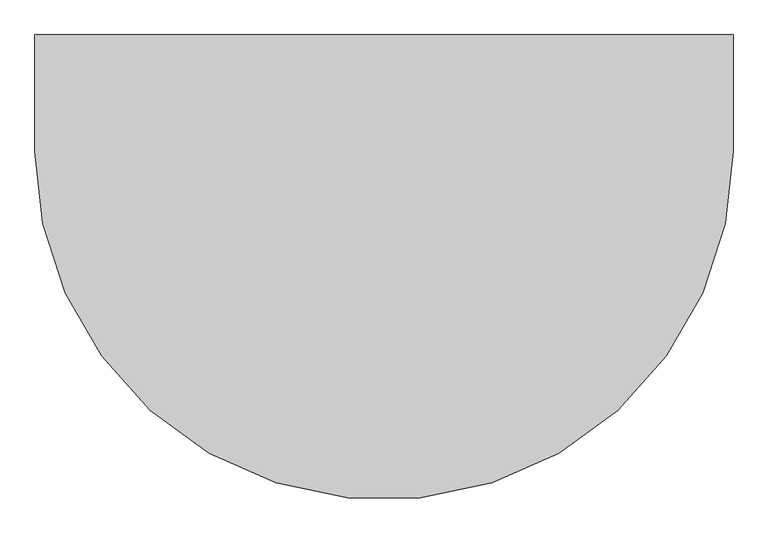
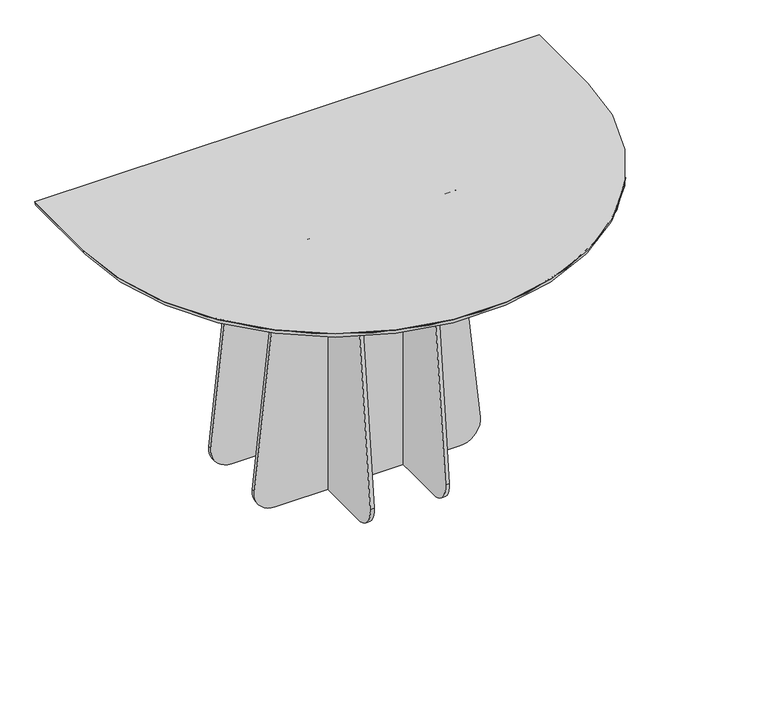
"""IFC4 building model written with IfcOpenShell, lengths in millimetres: furniture geometry, Lundbergs Möbler - Funghi Mèta - Table - Half Moon - 180 - H105 : Lundbergs Möbler - Funghi Mèta - Table - Half Moon - 180 - H105."""

from ifc_helpers import new_model, si_unit, point, frame, frame_2d, origin, place, context, project, spatial, polyline, circle_curve, ellipse_curve, trimmed, segment, composite_curve, outline, extrude, source, transform, mapped, element, save
from ifc_brep_helpers import plane_surface, cylinder_surface, revolved_surface, advanced_brep


def furniture_8cfc61dc(model_context):
    return source(origin(), model_context, "Body", "SolidModel", [
        advanced_brep(
        [(899.9999872, 356.1679038, 1050.0), (899.9999872, 356.1679038, 1048.4429462), (877.6980213, 356.1679038, 1026.1409804), (-877.6979684, 356.1679038, 1026.1409804), (-899.9999342, 356.1679038, 1048.4429462), (-899.9999342, 356.1679038, 1050.0), (-899.9999342, 56.0832467, 1050.0), (899.9999872, 56.0832467, 1050.0), (899.9999872, 56.0832467, 1048.4429462), (877.6980213, 56.0832467, 1026.1409804), (-877.6979684, 56.0832467, 1026.1409804), (-899.9999342, 56.0832467, 1048.4429462)],
        [
            (0, 1),
            (1, 2, circle_curve(frame((877.6980213, 356.1679038, 1048.4429462), z_axis=(0.0, 1.0, 0.0), x_axis=(1.0, 0.0, 0.0)), 22.3019658)),
            (2, 3),
            (3, 4, circle_curve(frame((-877.6979684, 356.1679038, 1048.4429462), z_axis=(0.0, 1.0, 0.0), x_axis=(-1.0, 0.0, 0.0)), 22.3019658)),
            (4, 5),
            (5, 0),
            (5, 6),
            (6, 7, circle_curve(frame((2.65e-05, 56.0832467, 1050.0), z_axis=(0.0, 0.0, 1.0), x_axis=(1.0, 0.0, 0.0)), 899.9999607)),
            (7, 0),
            (7, 8),
            (8, 1),
            (8, 9, circle_curve(frame((877.6980213, 56.0832467, 1048.4429462), z_axis=(0.0, 1.0, 0.0), x_axis=(1.0, 0.0, 0.0)), 22.3019658)),
            (9, 2),
            (9, 10, circle_curve(frame((2.65e-05, 56.0832467, 1026.1409804), z_axis=(0.0, 0.0, -1.0), x_axis=(1.0, 0.0, 0.0)), 877.6979949)),
            (10, 3),
            (6, 11),
            (11, 8, circle_curve(frame((2.65e-05, 56.0832467, 1048.4429462), z_axis=(0.0, 0.0, 1.0), x_axis=(1.0, 0.0, 0.0)), 899.9999607)),
            (11, 10, circle_curve(frame((-877.6979684, 56.0832467, 1048.4429462), z_axis=(0.0, -1.0, 0.0), x_axis=(-1.0, 0.0, 0.0)), 22.3019658)),
            (4, 11),
        ],
        [
            plane_surface(frame((899.9999872, 356.1679038, 326.0368389), z_axis=(0.0, 1.0, 0.0), x_axis=(0.0, 0.0, 1.0))),
            plane_surface(frame((712.358192, 356.1679038, 1050.0), z_axis=(0.0, 0.0, 1.0), x_axis=(0.0, -1.0, 0.0))),
            plane_surface(frame((899.9999872, 356.1679038, 1050.0), z_axis=(1.0, 0.0, 0.0), x_axis=(0.0, -1.0, 0.0))),
            cylinder_surface(frame((877.6980213, 356.1679038, 1048.4429462), z_axis=(0.0, 1.0, 0.0), x_axis=(1.0, 0.0, 0.0)), 22.3019658),
            plane_surface(frame((877.6980213, 356.1679038, 1026.1409804), z_axis=(0.0, 0.0, -1.0), x_axis=(0.0, -1.0, 0.0))),
            cylinder_surface(frame((2.65e-05, 56.0832467, 326.0368389), z_axis=(0.0, 0.0, -1.0), x_axis=(1.0, 0.0, 0.0)), 899.9999607),
            revolved_surface(trimmed(ellipse_curve(frame((877.6980213, 56.0832467, 1048.4429462), z_axis=(0.0, 1.0, 0.0), x_axis=(1.0, 0.0, 0.0)), 22.3019658, 22.3019658), [point((899.9999872, 56.0832467, 1048.4429462))], [point((877.6980213, 56.0832467, 1026.1409804))], True, "CARTESIAN"), (2.65e-05, 56.0832467, 326.0368389), (0.0, 0.0, -1.0)),
            plane_surface(frame((-899.9999342, 56.0832467, 1050.0), z_axis=(-1.0, 0.0, 0.0), x_axis=(0.0, 1.0, 0.0))),
            cylinder_surface(frame((-877.6979684, 56.0832467, 1048.4429462), z_axis=(0.0, -1.0, 0.0), x_axis=(-1.0, 0.0, 0.0)), 22.3019658),
        ],
        [
            (0, [[1, 2, 3, 4, 5, 6]]),
            (1, [[-6, 7, 8, 9]]),
            (2, [[-1, -9, 10, 11]]),
            (3, [[-2, -11, 12, 13]]),
            (4, [[-3, -13, 14, 15]]),
            (5, [[-8, 16, 17, -10]]),
            (6, [[-12, -17, 18, -14]]),
            (7, [[-7, -5, 19, -16]]),
            (8, [[-15, -18, -19, -4]]),
        ],
    ),
        extrude(outline(composite_curve([segment(trimmed(circle_curve(frame_2d((-328.9885604, 75.0)), 75.0), [point((-328.9885604, 0.0))], [point((-403.5717494, 82.8960696))], False, "CARTESIAN"), True, "CONTINUOUS"), segment(polyline([(-403.5717494, 82.8960696), (-303.7110763, 1026.1409804), (338.722675, 1026.1409804), (338.722675, 0.0), (-328.9885604, 0.0)]), True, "CONTINUOUS")], self_intersect=False)), frame((127.6465142, 0.0, 0.0), z_axis=(1.0, 0.0, 0.0), x_axis=(0.0, 1.0, 0.0)), (0.0, 0.0, 1.0), 13.4999997),
        extrude(outline(composite_curve([segment(trimmed(circle_curve(frame_2d((-328.9885604, 75.0)), 75.0), [point((-328.9885604, 0.0))], [point((-403.5717494, 82.8960696))], False, "CARTESIAN"), True, "CONTINUOUS"), segment(polyline([(-403.5717494, 82.8960696), (-303.7110763, 1026.1409804), (338.722675, 1026.1409804), (338.722675, 0.0), (-328.9885604, 0.0)]), True, "CONTINUOUS")], self_intersect=False)), frame((-141.1465138, 0.0, 0.0), z_axis=(1.0, 0.0, 0.0), x_axis=(0.0, 1.0, 0.0)), (0.0, 0.0, 1.0), 13.4999997),
        extrude(outline(composite_curve([segment(trimmed(circle_curve(frame_2d((1024.5279988, 196.2845895)), 8.5), [point((1016.0279988, 196.2845895))], [point((1024.5279988, 204.7845895))], False, "CARTESIAN"), True, "CONTINUOUS"), segment(polyline([(1024.5279988, 204.7845895), (1026.1409804, 204.7845895), (1026.1409804, -204.7845895), (1024.5279988, -204.7845895)]), True, "CONTINUOUS"), segment(trimmed(circle_curve(frame_2d((1024.5279988, -196.2845895)), 8.5), [point((1024.5279988, -204.7845895))], [point((1016.0279988, -196.2845895))], False, "CARTESIAN"), True, "CONTINUOUS"), segment(polyline([(1016.0279988, -196.2845895), (1016.0279988, 196.2845895)]), True, "CONTINUOUS")], self_intersect=False)), frame((0.0, 242.5896085, 0.0), z_axis=(0.0, 1.0, 0.0), x_axis=(0.0, 0.0, 1.0)), (0.0, 0.0, 1.0), 40.0000216),
        extrude(outline(composite_curve([segment(trimmed(circle_curve(frame_2d((-196.2845895, 1024.5279988)), 8.5), [point((-196.2845895, 1016.0279988))], [point((-204.7845895, 1024.5279988))], False, "CARTESIAN"), True, "CONTINUOUS"), segment(polyline([(-204.7845895, 1024.5279988), (-204.7845895, 1026.1409804), (204.7845895, 1026.1409804), (204.7845895, 1024.5279988)]), True, "CONTINUOUS"), segment(trimmed(circle_curve(frame_2d((196.2845895, 1024.5279988)), 8.5), [point((204.7845895, 1024.5279988))], [point((196.2845895, 1016.0279988))], False, "CARTESIAN"), True, "CONTINUOUS"), segment(polyline([(196.2845895, 1016.0279988), (-196.2845895, 1016.0279988)]), True, "CONTINUOUS")], self_intersect=False)), frame((242.5896085, 0.0, 0.0), z_axis=(1.0, 0.0, 0.0), x_axis=(0.0, 1.0, 0.0)), (0.0, 0.0, 1.0), 40.0000216),
        extrude(outline(composite_curve([segment(trimmed(circle_curve(frame_2d((-196.2845895, 1024.5279988)), 8.5), [point((-196.2845895, 1016.0279988))], [point((-204.7845895, 1024.5279988))], False, "CARTESIAN"), True, "CONTINUOUS"), segment(polyline([(-204.7845895, 1024.5279988), (-204.7845895, 1026.1409804), (204.7845895, 1026.1409804), (204.7845895, 1024.5279988)]), True, "CONTINUOUS"), segment(trimmed(circle_curve(frame_2d((196.2845895, 1024.5279988)), 8.5), [point((204.7845895, 1024.5279988))], [point((196.2845895, 1016.0279988))], False, "CARTESIAN"), True, "CONTINUOUS"), segment(polyline([(196.2845895, 1016.0279988), (-196.2845895, 1016.0279988)]), True, "CONTINUOUS")], self_intersect=False)), frame((-282.5896301, 0.0, 0.0), z_axis=(1.0, 0.0, 0.0), x_axis=(0.0, 1.0, 0.0)), (0.0, 0.0, 1.0), 40.0000216),
        extrude(outline(composite_curve([segment(trimmed(circle_curve(frame_2d((1024.5279988, 196.2845895)), 8.5), [point((1016.0279988, 196.2845895))], [point((1024.5279988, 204.7845895))], False, "CARTESIAN"), True, "CONTINUOUS"), segment(polyline([(1024.5279988, 204.7845895), (1026.1409804, 204.7845895), (1026.1409804, -204.7845895), (1024.5279988, -204.7845895)]), True, "CONTINUOUS"), segment(trimmed(circle_curve(frame_2d((1024.5279988, -196.2845895)), 8.5), [point((1024.5279988, -204.7845895))], [point((1016.0279988, -196.2845895))], False, "CARTESIAN"), True, "CONTINUOUS"), segment(polyline([(1016.0279988, -196.2845895), (1016.0279988, 196.2845895)]), True, "CONTINUOUS")], self_intersect=False)), frame((0.0, -282.5896301, 0.0), z_axis=(0.0, 1.0, 0.0), x_axis=(0.0, 0.0, 1.0)), (0.0, 0.0, 1.0), 40.0000216),
        extrude(outline(composite_curve([segment(trimmed(circle_curve(frame_2d((75.0, -328.9885604)), 75.0), [point((82.8960696, -403.5717494))], [point((0.0, -328.9885604))], False, "CARTESIAN"), True, "CONTINUOUS"), segment(polyline([(0.0, -328.9885604), (0.0, 328.9885604)]), True, "CONTINUOUS"), segment(trimmed(circle_curve(frame_2d((75.0, 328.9885604)), 75.0), [point((0.0, 328.9885604))], [point((82.8960696, 403.5717494))], False, "CARTESIAN"), True, "CONTINUOUS"), segment(polyline([(82.8960696, 403.5717494), (1026.1409804, 303.7110763), (1026.1409804, -303.7110763), (82.8960696, -403.5717494)]), True, "CONTINUOUS")], self_intersect=False)), frame((0.0, 127.6465142, 0.0), z_axis=(0.0, 1.0, 0.0), x_axis=(0.0, 0.0, 1.0)), (0.0, 0.0, 1.0), 13.4999997),
        extrude(outline(composite_curve([segment(trimmed(circle_curve(frame_2d((75.0, -328.9885604)), 75.0), [point((82.8960696, -403.5717494))], [point((0.0, -328.9885604))], False, "CARTESIAN"), True, "CONTINUOUS"), segment(polyline([(0.0, -328.9885604), (0.0, 328.9885604)]), True, "CONTINUOUS"), segment(trimmed(circle_curve(frame_2d((75.0, 328.9885604)), 75.0), [point((0.0, 328.9885604))], [point((82.8960696, 403.5717494))], False, "CARTESIAN"), True, "CONTINUOUS"), segment(polyline([(82.8960696, 403.5717494), (1026.1409804, 303.7110763), (1026.1409804, -303.7110763), (82.8960696, -403.5717494)]), True, "CONTINUOUS")], self_intersect=False)), frame((0.0, -141.1465138, 0.0), z_axis=(0.0, 1.0, 0.0), x_axis=(0.0, 0.0, 1.0)), (0.0, 0.0, 1.0), 13.4999997),
    ])


if __name__ == "__main__":
    model = new_model("IFC4")
    model_context = context("Model", 3, world=origin())
    ifc_project = project(units=[si_unit("LENGTHUNIT", "METRE", prefix="MILLI")], contexts=[model_context])
    site = spatial("IfcSite", under=ifc_project)
    building = spatial("IfcBuilding", under=site)
    placement = place(None, origin())
    furniture_shape = furniture_8cfc61dc(model_context)
    element("IfcFurniture", 1, ObjectType="Lundbergs Möbler - Funghi Mèta - Table - Half Moon - 180 - H105 : Lundbergs Möbler - Funghi Mèta - Table - Half Moon - 180 - H105", at=placement, inside=building, context=model_context, shape_type="MappedRepresentation", body=[
        mapped(furniture_shape, transform((0.0, 0.0, 0.0), x_axis=(1.0, 0.0, 0.0), y_axis=(0.0, 1.0, 0.0), z_axis=(0.0, 0.0, 1.0))),
    ])
    save(model, "model.ifc")
